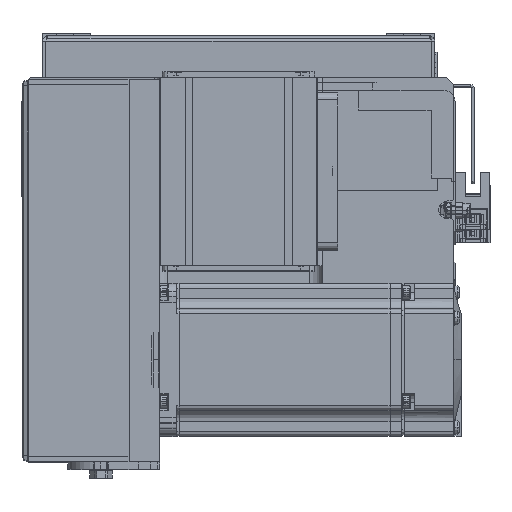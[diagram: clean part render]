
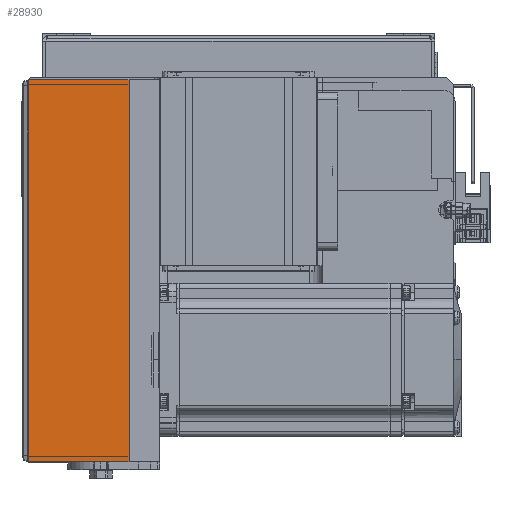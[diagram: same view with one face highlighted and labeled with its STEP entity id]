
A CAD part, top view. The second image highlights one B-rep face of the part: STEP entity #28930.
In plain terms, the highlighted planar face has unit normal (0, 0, 1) as drawn and (0, -1, 0) by its records, which use the part's own axes.
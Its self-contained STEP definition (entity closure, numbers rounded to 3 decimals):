
#33 = VERTEX_POINT ( 'NONE', #35205 ) ;
#4239 = CARTESIAN_POINT ( 'NONE',  ( 0., -36., 52. ) ) ;
#4815 = EDGE_CURVE ( 'NONE', #35384, #24830, #10251, .T. ) ;
#7372 = EDGE_CURVE ( 'NONE', #35384, #7745, #38509, .T. ) ;
#7745 = VERTEX_POINT ( 'NONE', #14706 ) ;
#8697 = EDGE_CURVE ( 'NONE', #7745, #33, #10155, .T. ) ;
#9409 = DIRECTION ( 'NONE',  ( 0., 0., -1. ) ) ;
#10155 = LINE ( 'NONE', #23422, #18329 ) ;
#10251 = LINE ( 'NONE', #32925, #20939 ) ;
#11190 = EDGE_LOOP ( 'NONE', ( #12296, #15417, #28343, #32900 ) ) ;
#12296 = ORIENTED_EDGE ( 'NONE', *, *, #7372, .F. ) ;
#14706 = CARTESIAN_POINT ( 'NONE',  ( 75., -36., 51.5 ) ) ;
#14733 = VECTOR ( 'NONE', #23343, 1000. ) ;
#14764 = DIRECTION ( 'NONE',  ( 1., 0., 0. ) ) ;
#15152 = FACE_OUTER_BOUND ( 'NONE', #11190, .T. ) ;
#15417 = ORIENTED_EDGE ( 'NONE', *, *, #4815, .T. ) ;
#18329 = VECTOR ( 'NONE', #26709, 1000. ) ;
#19590 = VECTOR ( 'NONE', #14764, 1000. ) ;
#20289 = LINE ( 'NONE', #33371, #14733 ) ;
#20939 = VECTOR ( 'NONE', #9409, 1000. ) ;
#21446 = DIRECTION ( 'NONE',  ( 0., 0., -1. ) ) ;
#23343 = DIRECTION ( 'NONE',  ( 1., 0., 0. ) ) ;
#23422 = CARTESIAN_POINT ( 'NONE',  ( 75., -36., 51.5 ) ) ;
#24736 = DIRECTION ( 'NONE',  ( 0., 1., 0. ) ) ;
#24830 = VERTEX_POINT ( 'NONE', #36444 ) ;
#26709 = DIRECTION ( 'NONE',  ( 0., 0., -1. ) ) ;
#27166 = CARTESIAN_POINT ( 'NONE',  ( -75., -36., 51.5 ) ) ;
#27299 = EDGE_CURVE ( 'NONE', #24830, #33, #20289, .T. ) ;
#28343 = ORIENTED_EDGE ( 'NONE', *, *, #27299, .T. ) ;
#28930 = ADVANCED_FACE ( 'NONE', ( #15152 ), #37827, .F. ) ;
#32900 = ORIENTED_EDGE ( 'NONE', *, *, #8697, .F. ) ;
#32925 = CARTESIAN_POINT ( 'NONE',  ( -75., -36., 51.5 ) ) ;
#33371 = CARTESIAN_POINT ( 'NONE',  ( 0., -36., 12. ) ) ;
#35205 = CARTESIAN_POINT ( 'NONE',  ( 75., -36., 12. ) ) ;
#35384 = VERTEX_POINT ( 'NONE', #27166 ) ;
#36444 = CARTESIAN_POINT ( 'NONE',  ( -75., -36., 12. ) ) ;
#37652 = CARTESIAN_POINT ( 'NONE',  ( 75., -36., 51.5 ) ) ;
#37827 = PLANE ( 'NONE',  #38532 ) ;
#38509 = LINE ( 'NONE', #37652, #19590 ) ;
#38532 = AXIS2_PLACEMENT_3D ( 'NONE', #4239, #24736, #21446 ) ;
